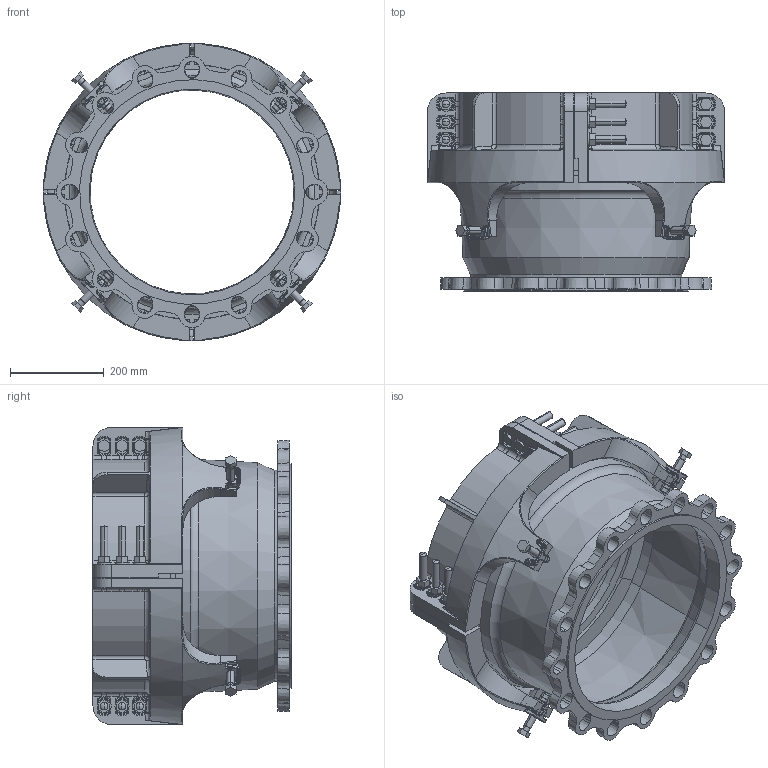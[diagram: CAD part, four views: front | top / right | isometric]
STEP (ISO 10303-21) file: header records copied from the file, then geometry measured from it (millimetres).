
FILE_DESCRIPTION((''),'2;1');
FILE_NAME('13497_5_SW0001','2017-05-05T',('mfairey'),('Glynwed Pipe Systems'),'PRO/ENGINEER BY PARAMETRIC TECHNOLOGY CORPORATION, 2006020','PRO/ENGINEER BY PARAMETRIC TECHNOLOGY CORPORATION, 2006020','');
FILE_SCHEMA(('CONFIG_CONTROL_DESIGN'));
Length unit declared in the file: millimetre
Products named in the file (1): 13497_5_SW0001
Bounding box: 634.92 x 423 x 634.92 mm (x, y, z)
Surface area: 2879248.6 mm2 (no closed solid volume)
Topology: 0 solids, 73 shells, 2014 faces, 5377 edges, 3390 vertices
Faces by surface type: cylinder 666, plane 625, torus 285, bspline 216, cone 134, sphere 88
Entity records: 72640 total; most frequent: CARTESIAN_POINT 23673, DIRECTION 10366, ORIENTED_EDGE 9818, EDGE_CURVE 5345, AXIS2_PLACEMENT_3D 3995, VERTEX_POINT 3390, VECTOR 2376, LINE 2376
